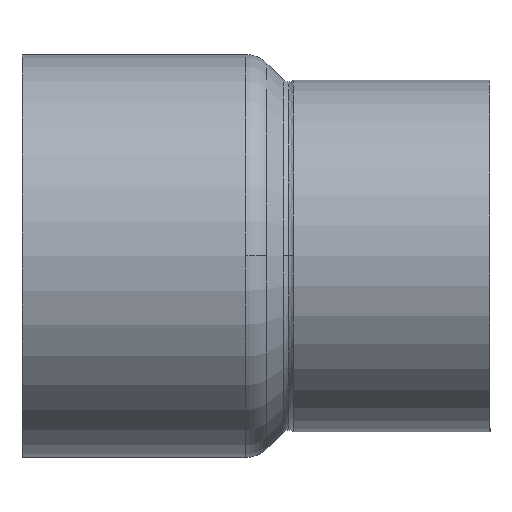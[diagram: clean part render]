
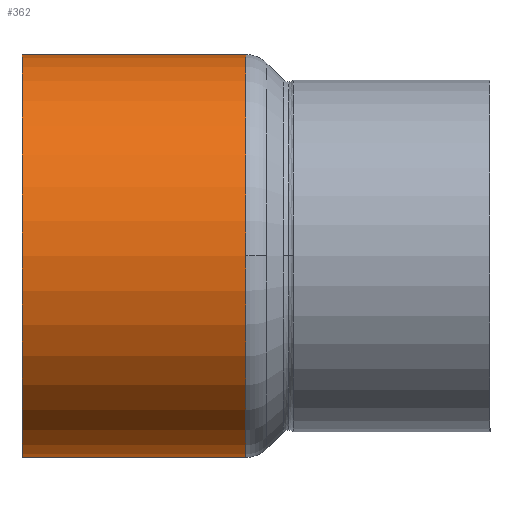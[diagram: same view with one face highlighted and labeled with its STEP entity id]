
A CAD part, top view. The second image highlights one B-rep face of the part: STEP entity #362.
In plain terms, the highlighted cylindrical face has radius 33.35 mm (diameter 66.7 mm), a partial arc.
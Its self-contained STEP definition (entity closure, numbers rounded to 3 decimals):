
#312=CARTESIAN_POINT('',(18.515,0.0,0.0));
#313=DIRECTION('',(1.0,0.0,0.0));
#314=DIRECTION('',(0.0,1.0,0.0));
#315=AXIS2_PLACEMENT_3D('',#312,#313,#314);
#316=CYLINDRICAL_SURFACE('',#315,33.35);
#317=CARTESIAN_POINT('',(0.,33.35,0.0));
#318=VERTEX_POINT('',#317);
#319=CARTESIAN_POINT('',(37.029,33.35,0.0));
#320=VERTEX_POINT('',#319);
#321=CARTESIAN_POINT('',(0.,33.35,0.0));
#322=DIRECTION('',(1.0,0.0,0.0));
#323=VECTOR('',#322,37.029);
#324=LINE('',#321,#323);
#325=EDGE_CURVE('',#318,#320,#324,.T.);
#326=ORIENTED_EDGE('',*,*,#325,.F.);
#327=CARTESIAN_POINT('',(0.,-33.35,0.));
#328=VERTEX_POINT('',#327);
#329=CARTESIAN_POINT('',(0.,0.0,0.0));
#330=DIRECTION('',(1.0,0.0,0.0));
#331=DIRECTION('',(0.0,1.0,0.0));
#332=AXIS2_PLACEMENT_3D('',#329,#330,#331);
#333=CIRCLE('',#332,33.35);
#334=EDGE_CURVE('',#318,#328,#333,.T.);
#335=ORIENTED_EDGE('',*,*,#334,.T.);
#336=CARTESIAN_POINT('',(37.029,-33.35,0.));
#337=VERTEX_POINT('',#336);
#338=CARTESIAN_POINT('',(37.029,-33.35,0.));
#339=DIRECTION('',(-1.0,0.0,0.0));
#340=VECTOR('',#339,37.029);
#341=LINE('',#338,#340);
#342=EDGE_CURVE('',#337,#328,#341,.T.);
#343=ORIENTED_EDGE('',*,*,#342,.F.);
#344=CARTESIAN_POINT('',(37.029,0.,33.35));
#345=VERTEX_POINT('',#344);
#346=CARTESIAN_POINT('',(37.029,0.0,0.0));
#347=DIRECTION('',(1.0,0.0,0.0));
#348=DIRECTION('',(0.0,1.0,0.0));
#349=AXIS2_PLACEMENT_3D('',#346,#347,#348);
#350=CIRCLE('',#349,33.35);
#351=EDGE_CURVE('',#345,#337,#350,.T.);
#352=ORIENTED_EDGE('',*,*,#351,.F.);
#353=CARTESIAN_POINT('',(37.029,0.0,0.0));
#354=DIRECTION('',(1.0,0.0,0.0));
#355=DIRECTION('',(0.0,1.0,0.0));
#356=AXIS2_PLACEMENT_3D('',#353,#354,#355);
#357=CIRCLE('',#356,33.35);
#358=EDGE_CURVE('',#320,#345,#357,.T.);
#359=ORIENTED_EDGE('',*,*,#358,.F.);
#360=EDGE_LOOP('',(#326,#335,#343,#352,#359));
#361=FACE_OUTER_BOUND('',#360,.T.);
#362=ADVANCED_FACE('',(#361),#316,.T.);
